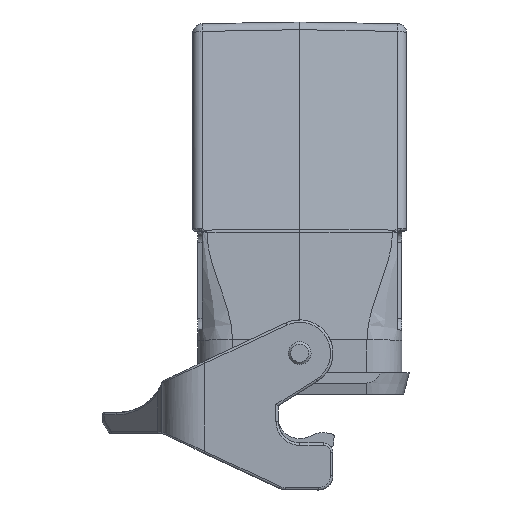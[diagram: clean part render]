
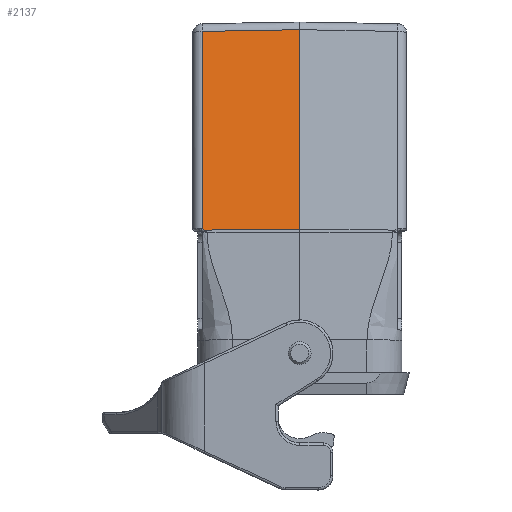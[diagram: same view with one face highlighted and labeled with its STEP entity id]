
A CAD part, left-side view. The second image highlights one B-rep face of the part: STEP entity #2137.
In plain terms, the highlighted planar face has unit normal (-0.982, 0.018, 0.191).
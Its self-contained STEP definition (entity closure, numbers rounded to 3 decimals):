
#1479=B_SPLINE_CURVE_WITH_KNOTS('',3,(#16189,#16190,#16191,#16192,#16193,
#16194,#16195),.UNSPECIFIED.,.F.,.F.,(4,3,4),(0.,0.143,1.),
 .UNSPECIFIED.);
#2137=ADVANCED_FACE('',(#2871),#2537,.T.);
#2537=PLANE('',#10247);
#2871=FACE_OUTER_BOUND('',#3375,.T.);
#3375=EDGE_LOOP('',(#4833,#4834,#4835,#4836,#4837));
#4833=ORIENTED_EDGE('',*,*,#7762,.T.);
#4834=ORIENTED_EDGE('',*,*,#7763,.T.);
#4835=ORIENTED_EDGE('',*,*,#7731,.T.);
#4836=ORIENTED_EDGE('',*,*,#7764,.F.);
#4837=ORIENTED_EDGE('',*,*,#7765,.T.);
#6754=VERTEX_POINT('',#16079);
#6755=VERTEX_POINT('',#16080);
#6775=VERTEX_POINT('',#16187);
#6776=VERTEX_POINT('',#16188);
#6777=VERTEX_POINT('',#16197);
#7731=EDGE_CURVE('',#6754,#6755,#8709,.T.);
#7762=EDGE_CURVE('',#6775,#6776,#8720,.T.);
#7763=EDGE_CURVE('',#6776,#6754,#1479,.T.);
#7764=EDGE_CURVE('',#6777,#6755,#8721,.T.);
#7765=EDGE_CURVE('',#6777,#6775,#8722,.T.);
#8709=LINE('',#16078,#9406);
#8720=LINE('',#16186,#9417);
#8721=LINE('',#16196,#9418);
#8722=LINE('',#16198,#9419);
#9406=VECTOR('',#11686,1.);
#9417=VECTOR('',#11735,1.);
#9418=VECTOR('',#11736,1.);
#9419=VECTOR('',#11737,1.);
#10247=AXIS2_PLACEMENT_3D('',#16199,#11738,#11739);
#11686=DIRECTION('',(-0.017,-1.,0.003));
#11735=DIRECTION('',(-0.191,0.,-0.982));
#11736=DIRECTION('',(-0.191,0.,-0.982));
#11737=DIRECTION('',(0.014,1.,-0.017));
#11738=DIRECTION('',(-0.981,0.017,0.191));
#11739=DIRECTION('',(0.191,0.,0.982));
#16078=CARTESIAN_POINT('',(-58.195,0.,23.134));
#16079=CARTESIAN_POINT('',(-57.854,19.89,23.068));
#16080=CARTESIAN_POINT('',(-58.195,0.,23.134));
#16186=CARTESIAN_POINT('',(-57.843,20.535,23.065));
#16187=CARTESIAN_POINT('',(-49.716,20.535,64.873));
#16188=CARTESIAN_POINT('',(-57.784,20.535,23.37));
#16189=CARTESIAN_POINT('',(-57.784,20.535,23.37));
#16190=CARTESIAN_POINT('',(-57.786,20.502,23.359));
#16191=CARTESIAN_POINT('',(-57.789,20.47,23.348));
#16192=CARTESIAN_POINT('',(-57.792,20.438,23.335));
#16193=CARTESIAN_POINT('',(-57.81,20.248,23.262));
#16194=CARTESIAN_POINT('',(-57.832,20.069,23.164));
#16195=CARTESIAN_POINT('',(-57.854,19.89,23.068));
#16196=CARTESIAN_POINT('',(-58.195,0.,23.134));
#16197=CARTESIAN_POINT('',(-50.012,0.,65.232));
#16198=CARTESIAN_POINT('',(-50.003,0.617,65.221));
#16199=CARTESIAN_POINT('',(-58.195,0.,23.134));
